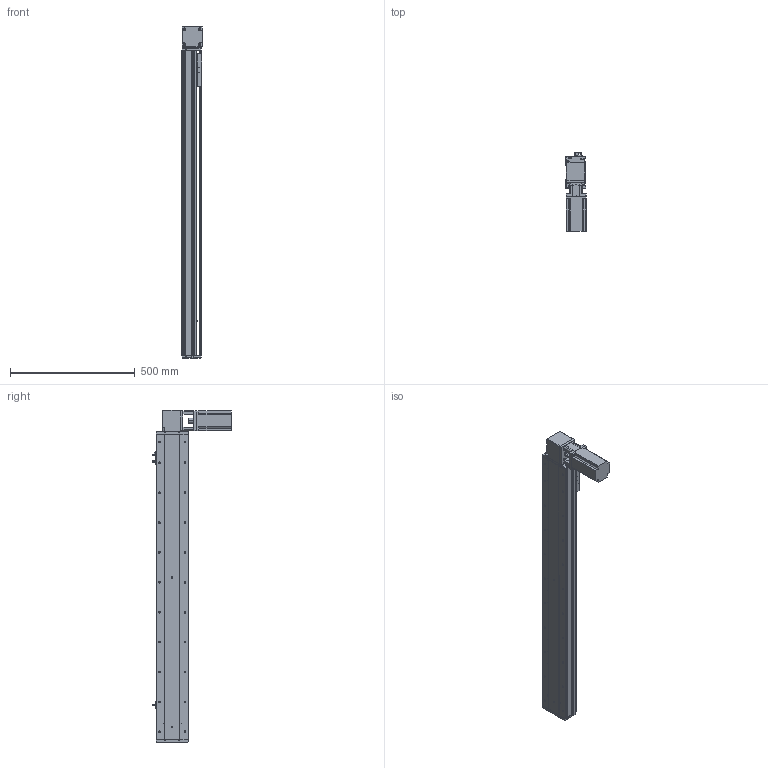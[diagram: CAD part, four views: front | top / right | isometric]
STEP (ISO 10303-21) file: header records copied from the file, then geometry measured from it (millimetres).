
FILE_DESCRIPTION (( 'STEP AP214' ), '1' );
FILE_NAME ('KSD130B-S1000-MLT-CM.STEP', '2019-09-23T02:22:34', ( '微软用户' ), ( '微软中国' ), 'SwSTEP 2.0', 'SolidWorks 2014', '' );
FILE_SCHEMA (( 'AUTOMOTIVE_DESIGN' ));
Length unit declared in the file: millimetre
Products named in the file (13): 130宽安装板同步带带电机座750W; 130宽盖板半封闭同步带-1000行程; 130宽马达安装板同步带左-改; 130宽马达安装板同步带半封闭; 台达ECMA－C20807AS伺服电机; 130宽同步带安装座半封闭; 130宽马达安装板1-带电机座750W（1）; 130宽端盖同步带半封闭; 130宽EGH20CA导轨半封闭同步带-1000行程; 130宽底板半封闭同步带-1000行程; KSD130B-S1000-MLT-CM; 覜茼え100遵圉猾敕; U倰嫖萇EEㄜSX672
Assembly tree (14 placements, depth 2):
  KSD130B-S1000-MLT-CM
    130宽底板半封闭同步带-1000行程
    130宽EGH20CA导轨半封闭同步带-1000行程
    130宽端盖同步带半封闭
    130宽同步带安装座半封闭
    130宽马达安装板同步带半封闭
    130宽马达安装板同步带左-改
    130宽盖板半封闭同步带-1000行程
    130宽安装板同步带带电机座750W
    U倰嫖萇EEㄜSX672  x3
    覜茼え100遵圉猾敕
    130宽马达安装板1-带电机座750W（1）
    台达ECMA－C20807AS伺服电机
Bounding box: 81 x 316 x 1333 mm (x, y, z)
Volume: 5319932.1 mm3; surface area: 1414790.2 mm2
Topology: 16 solids, 16 shells, 1787 faces, 5116 edges, 3279 vertices
Faces by surface type: cylinder 825, plane 771, cone 189, bspline 2
Entity records: 62060 total; most frequent: CARTESIAN_POINT 11384, DIRECTION 9090, ORIENTED_EDGE 8852, EDGE_CURVE 4426, AXIS2_PLACEMENT_3D 3323, VERTEX_POINT 2903, VECTOR 2444, LINE 2444
